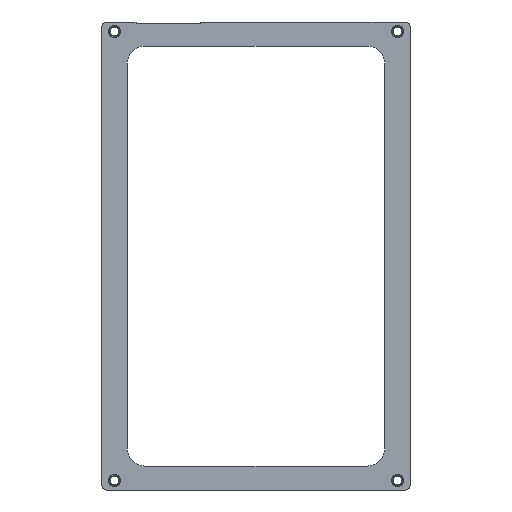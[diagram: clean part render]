
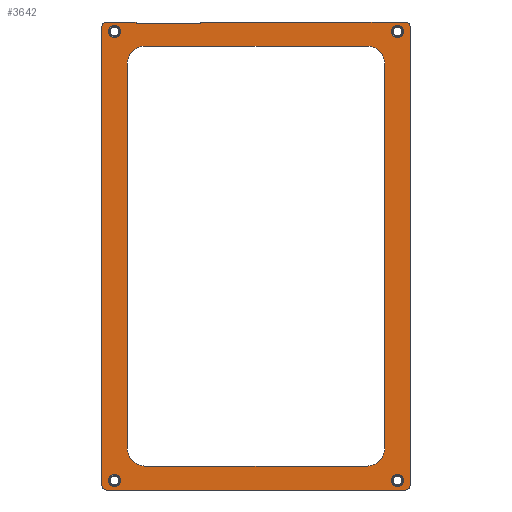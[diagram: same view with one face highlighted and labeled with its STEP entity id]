
A CAD part, front view. The second image highlights one B-rep face of the part: STEP entity #3642.
In plain terms, the highlighted planar face has unit normal (0, -1, 0).
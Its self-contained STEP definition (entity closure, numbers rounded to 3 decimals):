
#3642=ADVANCED_FACE('',(#5767,#5769,#5771,#5773,#5775,#5777),#5779,.F.);
#5767=FACE_BOUND('',#5768,.T.);
#5768=EDGE_LOOP('',(#7529,#7530,#7531,#7532,#7533,#7534,#7535,#7536,#7537,#7538,
#7539,#7540));
#5769=FACE_BOUND('',#5770,.T.);
#5770=EDGE_LOOP('',(#7541,#7542,#7543,#7544,#7545,#7546,#7547,#7548));
#5771=FACE_BOUND('',#5772,.T.);
#5772=EDGE_LOOP('',(#7549));
#5773=FACE_BOUND('',#5774,.T.);
#5774=EDGE_LOOP('',(#7550));
#5775=FACE_BOUND('',#5776,.T.);
#5776=EDGE_LOOP('',(#7551));
#5777=FACE_BOUND('',#5778,.T.);
#5778=EDGE_LOOP('',(#7552));
#5779=PLANE('',#5780);
#5780=AXIS2_PLACEMENT_3D('',#5781,#5782,#5783);
#5781=CARTESIAN_POINT('',(0.,0.,0.));
#5782=DIRECTION('',(0.,1.,0.));
#5783=DIRECTION('',(0.,0.,-1.));
#7529=ORIENTED_EDGE('',*,*,#8308,.F.);
#7530=ORIENTED_EDGE('',*,*,#8306,.F.);
#7531=ORIENTED_EDGE('',*,*,#8304,.F.);
#7532=ORIENTED_EDGE('',*,*,#8302,.F.);
#7533=ORIENTED_EDGE('',*,*,#8300,.F.);
#7534=ORIENTED_EDGE('',*,*,#8298,.F.);
#7535=ORIENTED_EDGE('',*,*,#8296,.F.);
#7536=ORIENTED_EDGE('',*,*,#8294,.F.);
#7537=ORIENTED_EDGE('',*,*,#8292,.F.);
#7538=ORIENTED_EDGE('',*,*,#8290,.F.);
#7539=ORIENTED_EDGE('',*,*,#8288,.F.);
#7540=ORIENTED_EDGE('',*,*,#8285,.F.);
#7541=ORIENTED_EDGE('',*,*,#8310,.T.);
#7542=ORIENTED_EDGE('',*,*,#8324,.T.);
#7543=ORIENTED_EDGE('',*,*,#8322,.T.);
#7544=ORIENTED_EDGE('',*,*,#8320,.T.);
#7545=ORIENTED_EDGE('',*,*,#8318,.T.);
#7546=ORIENTED_EDGE('',*,*,#8316,.T.);
#7547=ORIENTED_EDGE('',*,*,#8314,.T.);
#7548=ORIENTED_EDGE('',*,*,#8312,.T.);
#7549=ORIENTED_EDGE('',*,*,#8325,.T.);
#7550=ORIENTED_EDGE('',*,*,#8326,.T.);
#7551=ORIENTED_EDGE('',*,*,#8327,.T.);
#7552=ORIENTED_EDGE('',*,*,#8328,.T.);
#8285=EDGE_CURVE('',#9393,#9394,#9395,.T.);
#8288=EDGE_CURVE('',#9394,#9398,#9399,.T.);
#8290=EDGE_CURVE('',#9398,#9401,#9402,.T.);
#8292=EDGE_CURVE('',#9401,#9404,#9405,.T.);
#8294=EDGE_CURVE('',#9404,#9407,#9408,.T.);
#8296=EDGE_CURVE('',#9407,#9410,#9411,.T.);
#8298=EDGE_CURVE('',#9410,#9413,#9414,.T.);
#8300=EDGE_CURVE('',#9413,#9416,#9417,.T.);
#8302=EDGE_CURVE('',#9416,#9419,#9420,.T.);
#8304=EDGE_CURVE('',#9419,#9422,#9423,.T.);
#8306=EDGE_CURVE('',#9422,#9425,#9426,.T.);
#8308=EDGE_CURVE('',#9425,#9393,#9428,.T.);
#8310=EDGE_CURVE('',#9431,#9429,#9432,.T.);
#8312=EDGE_CURVE('',#9434,#9431,#9435,.T.);
#8314=EDGE_CURVE('',#9437,#9434,#9438,.T.);
#8316=EDGE_CURVE('',#9440,#9437,#9441,.T.);
#8318=EDGE_CURVE('',#9443,#9440,#9444,.T.);
#8320=EDGE_CURVE('',#9446,#9443,#9447,.T.);
#8322=EDGE_CURVE('',#9449,#9446,#9450,.T.);
#8324=EDGE_CURVE('',#9429,#9449,#9452,.T.);
#8325=EDGE_CURVE('',#9453,#9453,#9454,.T.);
#8326=EDGE_CURVE('',#9455,#9455,#9456,.T.);
#8327=EDGE_CURVE('',#9457,#9457,#9458,.T.);
#8328=EDGE_CURVE('',#9459,#9459,#9460,.T.);
#9393=VERTEX_POINT('',#12027);
#9394=VERTEX_POINT('',#12028);
#9395=LINE('',#12029,#12030);
#9398=VERTEX_POINT('',#12038);
#9399=CIRCLE('',#12039,6.);
#9401=VERTEX_POINT('',#12046);
#9402=LINE('',#12047,#12048);
#9404=VERTEX_POINT('',#12053);
#9405=CIRCLE('',#12054,6.);
#9407=VERTEX_POINT('',#12061);
#9408=LINE('',#12062,#12063);
#9410=VERTEX_POINT('',#12068);
#9411=CIRCLE('',#12069,6.);
#9413=VERTEX_POINT('',#12076);
#9414=LINE('',#12077,#12078);
#9416=VERTEX_POINT('',#12083);
#9417=CIRCLE('',#12084,6.);
#9419=VERTEX_POINT('',#12091);
#9420=LINE('',#12092,#12093);
#9422=VERTEX_POINT('',#12098);
#9423=LINE('',#12099,#12100);
#9425=VERTEX_POINT('',#12105);
#9426=LINE('',#12106,#12107);
#9428=LINE('',#12112,#12113);
#9429=VERTEX_POINT('',#12115);
#9431=VERTEX_POINT('',#12119);
#9432=LINE('',#12120,#12121);
#9434=VERTEX_POINT('',#12126);
#9435=CIRCLE('',#12127,20.);
#9437=VERTEX_POINT('',#12134);
#9438=LINE('',#12135,#12136);
#9440=VERTEX_POINT('',#12141);
#9441=CIRCLE('',#12142,20.);
#9443=VERTEX_POINT('',#12149);
#9444=LINE('',#12150,#12151);
#9446=VERTEX_POINT('',#12156);
#9447=CIRCLE('',#12157,20.);
#9449=VERTEX_POINT('',#12164);
#9450=LINE('',#12165,#12166);
#9452=CIRCLE('',#12171,20.);
#9453=VERTEX_POINT('',#12175);
#9454=CIRCLE('',#12176,7.);
#9455=VERTEX_POINT('',#12180);
#9456=CIRCLE('',#12181,7.);
#9457=VERTEX_POINT('',#12185);
#9458=CIRCLE('',#12186,7.);
#9459=VERTEX_POINT('',#12190);
#9460=CIRCLE('',#12191,7.);
#12027=CARTESIAN_POINT('',(-79.329,0.,254.95));
#12028=CARTESIAN_POINT('',(159.671,0.,254.95));
#12029=CARTESIAN_POINT('',(-79.329,0.,254.95));
#12030=VECTOR('',#12031,1.);
#12031=DIRECTION('',(1.,0.,0.));
#12038=CARTESIAN_POINT('',(165.671,0.,248.95));
#12039=AXIS2_PLACEMENT_3D('',#12040,#12041,#12042);
#12040=CARTESIAN_POINT('',(159.671,0.,248.95));
#12041=DIRECTION('',(0.,1.,0.));
#12042=DIRECTION('',(0.,0.,1.));
#12046=CARTESIAN_POINT('',(165.671,0.,-285.05));
#12047=CARTESIAN_POINT('',(165.671,0.,248.95));
#12048=VECTOR('',#12049,1.);
#12049=DIRECTION('',(0.,0.,-1.));
#12053=CARTESIAN_POINT('',(159.671,0.,-291.05));
#12054=AXIS2_PLACEMENT_3D('',#12055,#12056,#12057);
#12055=CARTESIAN_POINT('',(159.671,0.,-285.05));
#12056=DIRECTION('',(0.,1.,0.));
#12057=DIRECTION('',(1.,0.,0.));
#12061=CARTESIAN_POINT('',(-188.329,0.,-291.05));
#12062=CARTESIAN_POINT('',(159.671,0.,-291.05));
#12063=VECTOR('',#12064,1.);
#12064=DIRECTION('',(-1.,0.,0.));
#12068=CARTESIAN_POINT('',(-194.329,0.,-285.05));
#12069=AXIS2_PLACEMENT_3D('',#12070,#12071,#12072);
#12070=CARTESIAN_POINT('',(-188.329,0.,-285.05));
#12071=DIRECTION('',(0.,1.,0.));
#12072=DIRECTION('',(0.,0.,-1.));
#12076=CARTESIAN_POINT('',(-194.329,0.,248.95));
#12077=CARTESIAN_POINT('',(-194.329,0.,-285.05));
#12078=VECTOR('',#12079,1.);
#12079=DIRECTION('',(0.,0.,1.));
#12083=CARTESIAN_POINT('',(-188.329,0.,254.95));
#12084=AXIS2_PLACEMENT_3D('',#12085,#12086,#12087);
#12085=CARTESIAN_POINT('',(-188.329,0.,248.95));
#12086=DIRECTION('',(0.,1.,0.));
#12087=DIRECTION('',(-1.,0.,0.));
#12091=CARTESIAN_POINT('',(-154.329,0.,254.95));
#12092=CARTESIAN_POINT('',(-188.329,0.,254.95));
#12093=VECTOR('',#12094,1.);
#12094=DIRECTION('',(1.,0.,0.));
#12098=CARTESIAN_POINT('',(-154.329,0.,253.45));
#12099=CARTESIAN_POINT('',(-154.329,0.,254.95));
#12100=VECTOR('',#12101,1.);
#12101=DIRECTION('',(0.,0.,-1.));
#12105=CARTESIAN_POINT('',(-79.329,0.,253.45));
#12106=CARTESIAN_POINT('',(-154.329,0.,253.45));
#12107=VECTOR('',#12108,1.);
#12108=DIRECTION('',(1.,0.,0.));
#12112=CARTESIAN_POINT('',(-79.329,0.,253.45));
#12113=VECTOR('',#12114,1.);
#12114=DIRECTION('',(0.,0.,1.));
#12115=CARTESIAN_POINT('',(-164.329,0.,206.95));
#12119=CARTESIAN_POINT('',(-164.329,0.,-243.05));
#12120=CARTESIAN_POINT('',(-164.329,0.,-243.05));
#12121=VECTOR('',#12122,1.);
#12122=DIRECTION('',(0.,0.,1.));
#12126=CARTESIAN_POINT('',(-144.329,0.,-263.05));
#12127=AXIS2_PLACEMENT_3D('',#12128,#12129,#12130);
#12128=CARTESIAN_POINT('',(-144.329,0.,-243.05));
#12129=DIRECTION('',(0.,1.,0.));
#12130=DIRECTION('',(0.,0.,-1.));
#12134=CARTESIAN_POINT('',(115.671,0.,-263.05));
#12135=CARTESIAN_POINT('',(115.671,0.,-263.05));
#12136=VECTOR('',#12137,1.);
#12137=DIRECTION('',(-1.,0.,0.));
#12141=CARTESIAN_POINT('',(135.671,0.,-243.05));
#12142=AXIS2_PLACEMENT_3D('',#12143,#12144,#12145);
#12143=CARTESIAN_POINT('',(115.671,0.,-243.05));
#12144=DIRECTION('',(0.,1.,0.));
#12145=DIRECTION('',(1.,0.,0.));
#12149=CARTESIAN_POINT('',(135.671,0.,206.95));
#12150=CARTESIAN_POINT('',(135.671,0.,206.95));
#12151=VECTOR('',#12152,1.);
#12152=DIRECTION('',(0.,0.,-1.));
#12156=CARTESIAN_POINT('',(115.671,0.,226.95));
#12157=AXIS2_PLACEMENT_3D('',#12158,#12159,#12160);
#12158=CARTESIAN_POINT('',(115.671,0.,206.95));
#12159=DIRECTION('',(0.,1.,0.));
#12160=DIRECTION('',(0.,0.,1.));
#12164=CARTESIAN_POINT('',(-144.329,0.,226.95));
#12165=CARTESIAN_POINT('',(-144.329,0.,226.95));
#12166=VECTOR('',#12167,1.);
#12167=DIRECTION('',(1.,0.,0.));
#12171=AXIS2_PLACEMENT_3D('',#12172,#12173,#12174);
#12172=CARTESIAN_POINT('',(-144.329,0.,206.95));
#12173=DIRECTION('',(0.,1.,0.));
#12174=DIRECTION('',(-1.,0.,0.));
#12175=CARTESIAN_POINT('',(-179.329,0.,-273.05));
#12176=AXIS2_PLACEMENT_3D('',#12177,#12178,#12179);
#12177=CARTESIAN_POINT('',(-179.329,0.,-280.05));
#12178=DIRECTION('',(0.,1.,0.));
#12179=DIRECTION('',(0.,0.,1.));
#12180=CARTESIAN_POINT('',(150.671,0.,-273.05));
#12181=AXIS2_PLACEMENT_3D('',#12182,#12183,#12184);
#12182=CARTESIAN_POINT('',(150.671,0.,-280.05));
#12183=DIRECTION('',(0.,1.,0.));
#12184=DIRECTION('',(0.,0.,1.));
#12185=CARTESIAN_POINT('',(150.671,0.,250.95));
#12186=AXIS2_PLACEMENT_3D('',#12187,#12188,#12189);
#12187=CARTESIAN_POINT('',(150.671,0.,243.95));
#12188=DIRECTION('',(0.,1.,0.));
#12189=DIRECTION('',(0.,0.,1.));
#12190=CARTESIAN_POINT('',(-179.329,0.,250.95));
#12191=AXIS2_PLACEMENT_3D('',#12192,#12193,#12194);
#12192=CARTESIAN_POINT('',(-179.329,0.,243.95));
#12193=DIRECTION('',(0.,1.,0.));
#12194=DIRECTION('',(0.,0.,1.));
